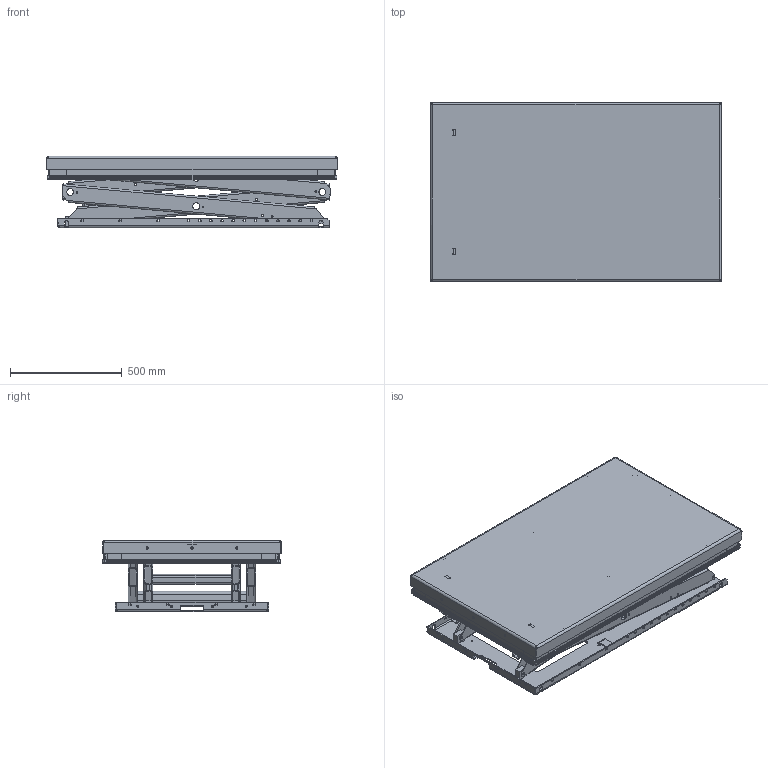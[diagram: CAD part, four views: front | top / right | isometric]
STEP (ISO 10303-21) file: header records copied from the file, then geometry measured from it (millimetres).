
FILE_DESCRIPTION(/* description */ ('Bottenram '),/* implementation_level */ '2;1');
FILE_NAME(/* name */ '\\EDMOFILE01\Users$\JOHSO\Desktop\600613_Botten.stp',/* time_stamp */ '2015-09-22T10:18:12+02:00',/* author */ ('JOHSO'),/* organization */ (''),/* preprocessor_version */ 'ST-DEVELOPER v15.6',/* originating_system */ 'Autodesk Inventor 2015',/* authorisation */ '');
FILE_SCHEMA (('AUTOMOTIVE_DESIGN { 1 0 10303 214 3 1 1 }'));
Products named in the file (45): 611365; 45258; 44681; 611364; 45051-1180; 600582; 45051-350; 600583; 45051-1180_1; 600587; 45076-490; 600584; 45076-414; 83216 - 37; 600585; 32079-01; 42394; ISO 4016 - M8 x 45; 32078-01; 42289-753; 42289-1273; 42330; 42331; 33991; 44283; 44280; 44279; 44282; ISO 7089 - 5 - 140 HV(1); 84253; 44281-1; ISO 2009 - M4 x 12ISO 7,9; 44281; ISO 4032 - M4ISO; 83928; 44277; 44278; 33992; ISO 7380 - M4 x 10; 33990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
Assembly tree (85 placements, depth 5):
  600613_TEMP
    611364
      611365
      45258  x2
      44681  x2
    600583
      600582  x2
        45051-1180
      45051-350
    600584
      600587  x2
        45051-1180_1
      45076-490
    600585
      45051-350
      600582  x2
        45051-1180
      45076-414
      83216 - 37  x4
    600587  x2
      45051-1180_1
    32078-01
      32079-01
      45258  x2
      42394  x2
      ISO 4016 - M8 x 45  x4
    31766 [Member=1300x800]
      42289-753  x2
      42289-1273  x2
      42330  x4
      42331  x4
      33990  x2
        33991
        44283
        44280
        44279
        44282
        ISO 7089 - 5 - 140 HV(1)
        84253
        44281
          44281-1
          ISO 2009 - M4 x 12ISO 7,9
        ISO 4032 - M4ISO
        83928
        44277
        44278
        33992
        ISO 7380 - M4 x 10
      43476  x4
      43481  x4
      ISO 4032 - M8ISO  x4
Bounding box: 1300 x 800 x 320 mm (x, y, z)
Volume: 20458046.3 mm3; surface area: 9876702.4 mm2
Topology: 96 solids, 96 shells, 4817 faces, 13064 edges, 8525 vertices
Faces by surface type: plane 2494, cylinder 1575, bspline 532, cone 106, torus 62, sphere 48
Full cylindrical faces by diameter (mm): 0.474 x2, 1 x4, 3 x4, 3.141 x4, 3.2 x4, 3.242 x4, 4 x14, 4.3 x4, 4.9 x2, 5 x4, 5.2 x6, 5.3 x4, 5.55 x2, 6.647 x4, 6.8 x8, 7.4 x24, 7.6 x4, 8 x10, 8.5 x4, 10 x6, 10.1 x16, 10.2 x16, 10.5 x20, 11 x2, 12 x4, 12.5 x2, 13 x10, 16 x8, 20.1 x4, 30.3 x16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
Entity records: 81933 total; most frequent: CARTESIAN_POINT 22320, ORIENTED_EDGE 12430, DIRECTION 11448, EDGE_CURVE 6214, VERTEX_POINT 4167, LINE 3952, VECTOR 3952, AXIS2_PLACEMENT_3D 3748
